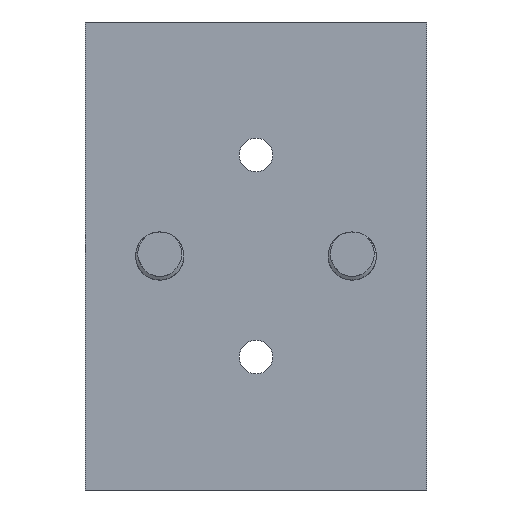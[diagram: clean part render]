
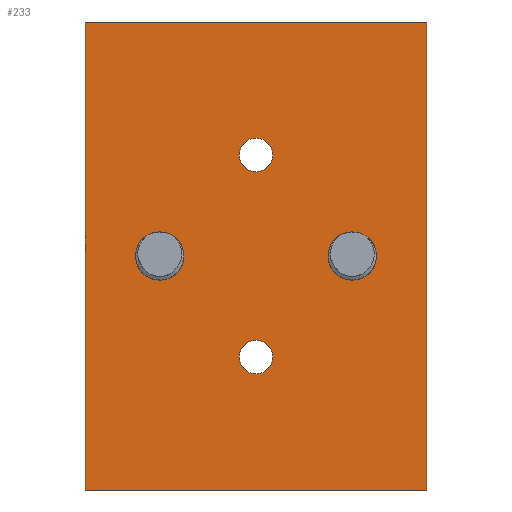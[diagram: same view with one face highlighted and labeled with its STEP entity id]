
A CAD part, left-side view. The second image highlights one B-rep face of the part: STEP entity #233.
In plain terms, the highlighted planar face has unit normal (-1, 0, 0).
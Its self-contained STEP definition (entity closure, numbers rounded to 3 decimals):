
#131=FACE_BOUND('',#357,.T.);
#132=FACE_BOUND('',#358,.T.);
#133=FACE_BOUND('',#359,.T.);
#134=FACE_BOUND('',#360,.T.);
#187=CIRCLE('',#906,3.493);
#188=CIRCLE('',#907,3.493);
#189=CIRCLE('',#908,4.391);
#190=CIRCLE('',#909,4.391);
#233=ADVANCED_FACE('',(#131,#132,#133,#134,#309),#269,.F.);
#269=PLANE('',#910);
#309=FACE_OUTER_BOUND('',#361,.T.);
#357=EDGE_LOOP('',(#539));
#358=EDGE_LOOP('',(#540));
#359=EDGE_LOOP('',(#541));
#360=EDGE_LOOP('',(#542));
#361=EDGE_LOOP('',(#543,#544,#545,#546));
#539=ORIENTED_EDGE('',*,*,#735,.F.);
#540=ORIENTED_EDGE('',*,*,#736,.T.);
#541=ORIENTED_EDGE('',*,*,#737,.F.);
#542=ORIENTED_EDGE('',*,*,#738,.T.);
#543=ORIENTED_EDGE('',*,*,#739,.T.);
#544=ORIENTED_EDGE('',*,*,#740,.F.);
#545=ORIENTED_EDGE('',*,*,#741,.F.);
#546=ORIENTED_EDGE('',*,*,#742,.T.);
#639=VERTEX_POINT('',#7918);
#640=VERTEX_POINT('',#7920);
#641=VERTEX_POINT('',#7922);
#642=VERTEX_POINT('',#7924);
#643=VERTEX_POINT('',#7926);
#644=VERTEX_POINT('',#7927);
#645=VERTEX_POINT('',#7929);
#646=VERTEX_POINT('',#7931);
#735=EDGE_CURVE('',#639,#639,#187,.T.);
#736=EDGE_CURVE('',#640,#640,#188,.T.);
#737=EDGE_CURVE('',#641,#641,#189,.T.);
#738=EDGE_CURVE('',#642,#642,#190,.T.);
#739=EDGE_CURVE('',#643,#644,#801,.T.);
#740=EDGE_CURVE('',#645,#644,#802,.T.);
#741=EDGE_CURVE('',#646,#645,#803,.T.);
#742=EDGE_CURVE('',#646,#643,#804,.T.);
#801=LINE('',#7925,#855);
#802=LINE('',#7928,#856);
#803=LINE('',#7930,#857);
#804=LINE('',#7932,#858);
#855=VECTOR('',#1060,1.);
#856=VECTOR('',#1061,1.);
#857=VECTOR('',#1062,1.);
#858=VECTOR('',#1063,1.);
#906=AXIS2_PLACEMENT_3D('',#7917,#1052,#1053);
#907=AXIS2_PLACEMENT_3D('',#7919,#1054,#1055);
#908=AXIS2_PLACEMENT_3D('',#7921,#1056,#1057);
#909=AXIS2_PLACEMENT_3D('',#7923,#1058,#1059);
#910=AXIS2_PLACEMENT_3D('',#7933,#1064,#1065);
#1052=DIRECTION('',(-1.,0.,0.));
#1053=DIRECTION('',(0.,0.,1.));
#1054=DIRECTION('',(1.,0.,0.));
#1055=DIRECTION('',(0.,0.,-1.));
#1056=DIRECTION('',(-1.,0.,0.));
#1057=DIRECTION('',(0.,0.,-1.));
#1058=DIRECTION('',(1.,0.,0.));
#1059=DIRECTION('',(0.,0.,-1.));
#1060=DIRECTION('',(0.,-1.,0.));
#1061=DIRECTION('',(0.,0.,-1.));
#1062=DIRECTION('',(0.,-1.,0.));
#1063=DIRECTION('',(0.,0.,-1.));
#1064=DIRECTION('',(1.,0.,0.));
#1065=DIRECTION('',(0.,0.,-1.));
#7917=CARTESIAN_POINT('',(3.674,-13.494,107.5));
#7918=CARTESIAN_POINT('',(3.674,-13.494,110.993));
#7919=CARTESIAN_POINT('',(3.674,-13.494,149.5));
#7920=CARTESIAN_POINT('',(3.674,-13.494,146.007));
#7921=CARTESIAN_POINT('',(3.674,-33.494,128.5));
#7922=CARTESIAN_POINT('',(3.674,-33.494,124.109));
#7923=CARTESIAN_POINT('',(3.674,6.506,128.5));
#7924=CARTESIAN_POINT('',(3.674,6.506,124.109));
#7925=CARTESIAN_POINT('',(3.674,36.506,79.879));
#7926=CARTESIAN_POINT('',(3.674,22.006,79.879));
#7927=CARTESIAN_POINT('',(3.674,-48.994,79.879));
#7928=CARTESIAN_POINT('',(3.674,-48.994,87.429));
#7929=CARTESIAN_POINT('',(3.674,-48.994,177.121));
#7930=CARTESIAN_POINT('',(3.674,36.506,177.121));
#7931=CARTESIAN_POINT('',(3.674,22.006,177.121));
#7932=CARTESIAN_POINT('',(3.674,22.006,87.429));
#7933=CARTESIAN_POINT('',(3.674,-66.998,87.429));
